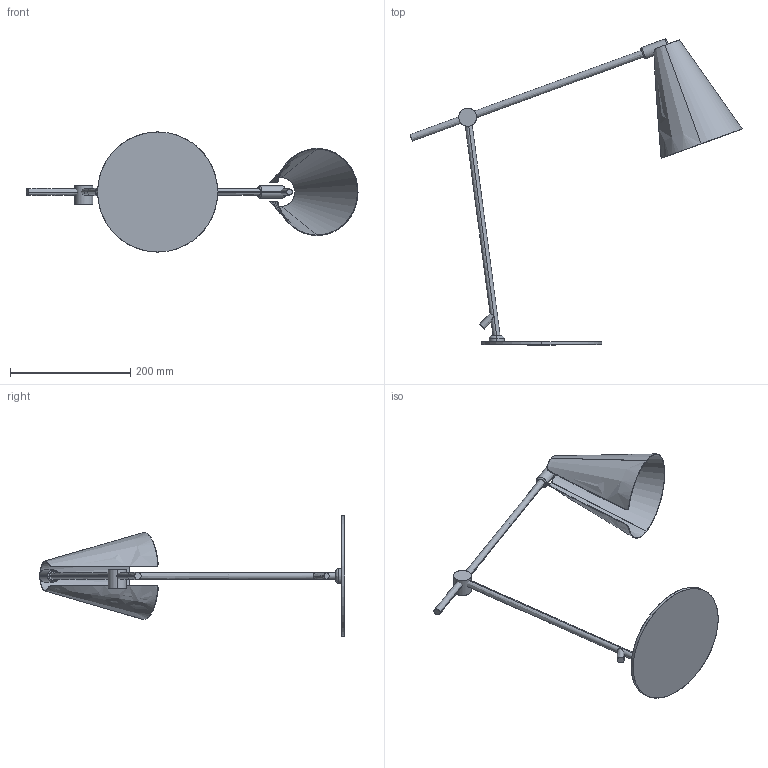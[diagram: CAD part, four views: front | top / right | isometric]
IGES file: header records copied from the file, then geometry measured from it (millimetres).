
Start section: SolidWorks IGES file using analytic representation for surfaces
Global section: file name: C:\Users\Agus\Desktop\Libreria modelos\1147\S1147\S1193.IGS; native system: SolidWorks 2016; preprocessor: SolidWorks 2016; author: Agus; date: 170621.160824; units: millimetre
Bounding box: 552.7 x 509.25 x 200 mm (x, y, z)
Surface area: 206198.2 mm2 (no closed solid volume)
Topology: 0 solids, 0 shells, 50 faces, 1265 edges, 1265 vertices
Faces by surface type: bspline 26, revolution 24
